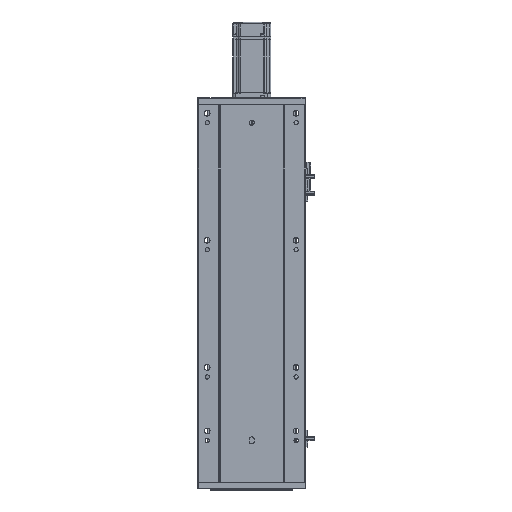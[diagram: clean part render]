
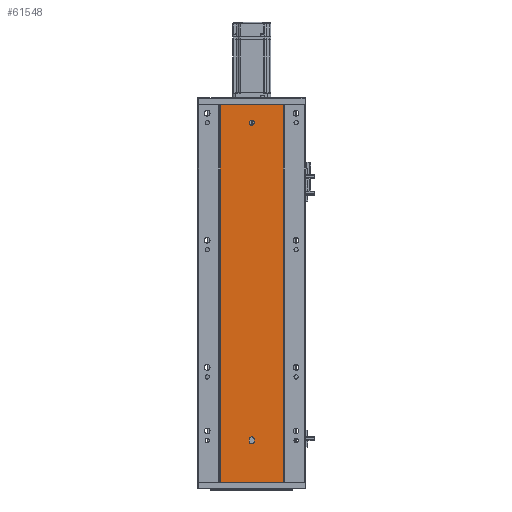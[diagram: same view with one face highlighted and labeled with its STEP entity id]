
A CAD part, front view. The second image highlights one B-rep face of the part: STEP entity #61548.
In plain terms, the highlighted planar face has unit normal (0, -1, 0).
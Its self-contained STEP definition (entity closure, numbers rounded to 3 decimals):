
#496 = AXIS2_PLACEMENT_3D ( 'NONE', #36404, #36613, #1706 ) ;
#658 = DIRECTION ( 'NONE',  ( 1., 0., 0. ) ) ;
#1458 = LINE ( 'NONE', #15335, #54908 ) ;
#1706 = DIRECTION ( 'NONE',  ( 0., 0., -1. ) ) ;
#1725 = CIRCLE ( 'NONE', #496, 4. ) ;
#3126 = EDGE_CURVE ( 'NONE', #30428, #42868, #45911, .T. ) ;
#3194 = CARTESIAN_POINT ( 'NONE',  ( 86.97, 79.476, 198. ) ) ;
#3819 = CARTESIAN_POINT ( 'NONE',  ( 136.47, 79.476, 67.5 ) ) ;
#4013 = AXIS2_PLACEMENT_3D ( 'NONE', #7741, #18055, #53202 ) ;
#4128 = B_SPLINE_CURVE_WITH_KNOTS ( 'NONE', 3,
 ( #37014, #61659, #3194, #42735 ),
 .UNSPECIFIED., .F., .F.,
 ( 4, 4 ),
 ( 0., 1. ),
 .UNSPECIFIED. ) ;
#5427 = FACE_BOUND ( 'NONE', #12594, .T. ) ;
#5588 = B_SPLINE_CURVE_WITH_KNOTS ( 'NONE', 3,
 ( #9038, #33823, #23732, #13630 ),
 .UNSPECIFIED., .F., .F.,
 ( 4, 4 ),
 ( 0., 1. ),
 .UNSPECIFIED. ) ;
#5598 = EDGE_CURVE ( 'NONE', #33282, #29806, #4128, .T. ) ;
#5677 = CARTESIAN_POINT ( 'NONE',  ( 136.47, 79.476, 562. ) ) ;
#6181 = FACE_BOUND ( 'NONE', #48029, .T. ) ;
#6700 = CIRCLE ( 'NONE', #46094, 4. ) ;
#7741 = CARTESIAN_POINT ( 'NONE',  ( 0., 79.476, 594. ) ) ;
#9038 = CARTESIAN_POINT ( 'NONE',  ( 185.97, 79.476, 594. ) ) ;
#10677 = LINE ( 'NONE', #53798, #12239 ) ;
#10875 = EDGE_CURVE ( 'NONE', #64849, #29631, #1725, .T. ) ;
#11216 = VERTEX_POINT ( 'NONE', #23402 ) ;
#11388 = EDGE_CURVE ( 'NONE', #29631, #64849, #59877, .T. ) ;
#12239 = VECTOR ( 'NONE', #58680, 1000. ) ;
#12594 = EDGE_LOOP ( 'NONE', ( #22360, #44350 ) ) ;
#12690 = CARTESIAN_POINT ( 'NONE',  ( 136.47, 79.476, 64.5 ) ) ;
#12887 = ORIENTED_EDGE ( 'NONE', *, *, #52910, .F. ) ;
#13541 = CARTESIAN_POINT ( 'NONE',  ( 132.47, 79.476, 67.5 ) ) ;
#13630 = CARTESIAN_POINT ( 'NONE',  ( 185.97, 79.476, 0. ) ) ;
#13945 = CIRCLE ( 'NONE', #32595, 4. ) ;
#15145 = CARTESIAN_POINT ( 'NONE',  ( 86.97, 79.476, 594. ) ) ;
#15335 = CARTESIAN_POINT ( 'NONE',  ( 0., 79.476, 594. ) ) ;
#16317 = DIRECTION ( 'NONE',  ( 0., 0., -1. ) ) ;
#17953 = FACE_OUTER_BOUND ( 'NONE', #40768, .T. ) ;
#18055 = DIRECTION ( 'NONE',  ( 0., 1., 0. ) ) ;
#18192 = DIRECTION ( 'NONE',  ( 0., -1., 0. ) ) ;
#18287 = CIRCLE ( 'NONE', #39253, 4. ) ;
#19177 = VECTOR ( 'NONE', #44649, 1000. ) ;
#20456 = DIRECTION ( 'NONE',  ( 0., -1., 0. ) ) ;
#20542 = CARTESIAN_POINT ( 'NONE',  ( 136.47, 79.476, 566. ) ) ;
#20668 = DIRECTION ( 'NONE',  ( 0., 0., -1. ) ) ;
#22109 = ORIENTED_EDGE ( 'NONE', *, *, #5598, .T. ) ;
#22360 = ORIENTED_EDGE ( 'NONE', *, *, #11388, .F. ) ;
#23092 = ORIENTED_EDGE ( 'NONE', *, *, #38188, .F. ) ;
#23402 = CARTESIAN_POINT ( 'NONE',  ( 132.47, 79.476, 64.5 ) ) ;
#23732 = CARTESIAN_POINT ( 'NONE',  ( 185.97, 79.476, 198. ) ) ;
#23790 = DIRECTION ( 'NONE',  ( 0., -1., 0. ) ) ;
#25794 = VERTEX_POINT ( 'NONE', #42045 ) ;
#26077 = VERTEX_POINT ( 'NONE', #45701 ) ;
#26484 = EDGE_CURVE ( 'NONE', #29806, #60027, #10677, .T. ) ;
#29030 = CARTESIAN_POINT ( 'NONE',  ( 185.97, 79.476, 0. ) ) ;
#29631 = VERTEX_POINT ( 'NONE', #5677 ) ;
#29806 = VERTEX_POINT ( 'NONE', #42980 ) ;
#30428 = VERTEX_POINT ( 'NONE', #53902 ) ;
#31013 = DIRECTION ( 'NONE',  ( 0., -1., 0. ) ) ;
#31133 = EDGE_CURVE ( 'NONE', #33282, #36708, #1458, .T. ) ;
#32595 = AXIS2_PLACEMENT_3D ( 'NONE', #55836, #20456, #20668 ) ;
#33282 = VERTEX_POINT ( 'NONE', #15145 ) ;
#33823 = CARTESIAN_POINT ( 'NONE',  ( 185.97, 79.476, 396. ) ) ;
#35953 = CARTESIAN_POINT ( 'NONE',  ( 140.47, 79.476, 67.5 ) ) ;
#36404 = CARTESIAN_POINT ( 'NONE',  ( 136.47, 79.476, 566. ) ) ;
#36613 = DIRECTION ( 'NONE',  ( 0., -1., 0. ) ) ;
#36708 = VERTEX_POINT ( 'NONE', #51240 ) ;
#37014 = CARTESIAN_POINT ( 'NONE',  ( 86.97, 79.476, 594. ) ) ;
#38188 = EDGE_CURVE ( 'NONE', #36708, #60027, #5588, .T. ) ;
#39253 = AXIS2_PLACEMENT_3D ( 'NONE', #3819, #23790, #58984 ) ;
#40768 = EDGE_LOOP ( 'NONE', ( #48619, #23092, #58655, #22109 ) ) ;
#41317 = EDGE_CURVE ( 'NONE', #42868, #25794, #18287, .T. ) ;
#42045 = CARTESIAN_POINT ( 'NONE',  ( 132.47, 79.476, 67.5 ) ) ;
#42735 = CARTESIAN_POINT ( 'NONE',  ( 86.97, 79.476, 0. ) ) ;
#42868 = VERTEX_POINT ( 'NONE', #35953 ) ;
#42980 = CARTESIAN_POINT ( 'NONE',  ( 86.97, 79.476, 0. ) ) ;
#43316 = PLANE ( 'NONE',  #4013 ) ;
#44350 = ORIENTED_EDGE ( 'NONE', *, *, #10875, .F. ) ;
#44474 = CARTESIAN_POINT ( 'NONE',  ( 136.47, 79.476, 570. ) ) ;
#44649 = DIRECTION ( 'NONE',  ( 0., 0., 1. ) ) ;
#45701 = CARTESIAN_POINT ( 'NONE',  ( 136.47, 79.476, 60.5 ) ) ;
#45911 = LINE ( 'NONE', #49704, #19177 ) ;
#46094 = AXIS2_PLACEMENT_3D ( 'NONE', #12690, #18192, #47617 ) ;
#46864 = ORIENTED_EDGE ( 'NONE', *, *, #51769, .F. ) ;
#47617 = DIRECTION ( 'NONE',  ( 0., 0., -1. ) ) ;
#47839 = LINE ( 'NONE', #13541, #51012 ) ;
#48029 = EDGE_LOOP ( 'NONE', ( #12887, #46864, #62619, #64199, #63954 ) ) ;
#48619 = ORIENTED_EDGE ( 'NONE', *, *, #26484, .T. ) ;
#49704 = CARTESIAN_POINT ( 'NONE',  ( 140.47, 79.476, 67.5 ) ) ;
#51012 = VECTOR ( 'NONE', #58649, 1000. ) ;
#51240 = CARTESIAN_POINT ( 'NONE',  ( 185.97, 79.476, 594. ) ) ;
#51769 = EDGE_CURVE ( 'NONE', #25794, #11216, #47839, .T. ) ;
#52712 = EDGE_CURVE ( 'NONE', #26077, #30428, #13945, .T. ) ;
#52910 = EDGE_CURVE ( 'NONE', #11216, #26077, #6700, .T. ) ;
#53202 = DIRECTION ( 'NONE',  ( 0., 0., 1. ) ) ;
#53798 = CARTESIAN_POINT ( 'NONE',  ( 0., 79.476, 0. ) ) ;
#53902 = CARTESIAN_POINT ( 'NONE',  ( 140.47, 79.476, 64.5 ) ) ;
#54908 = VECTOR ( 'NONE', #658, 1000. ) ;
#55648 = AXIS2_PLACEMENT_3D ( 'NONE', #20542, #31013, #16317 ) ;
#55836 = CARTESIAN_POINT ( 'NONE',  ( 136.47, 79.476, 64.5 ) ) ;
#58649 = DIRECTION ( 'NONE',  ( 0., 0., -1. ) ) ;
#58655 = ORIENTED_EDGE ( 'NONE', *, *, #31133, .F. ) ;
#58680 = DIRECTION ( 'NONE',  ( 1., 0., 0. ) ) ;
#58984 = DIRECTION ( 'NONE',  ( 0., 0., -1. ) ) ;
#59877 = CIRCLE ( 'NONE', #55648, 4. ) ;
#60027 = VERTEX_POINT ( 'NONE', #29030 ) ;
#61548 = ADVANCED_FACE ( 'NONE', ( #6181, #5427, #17953 ), #43316, .F. ) ;
#61659 = CARTESIAN_POINT ( 'NONE',  ( 86.97, 79.476, 396. ) ) ;
#62619 = ORIENTED_EDGE ( 'NONE', *, *, #41317, .F. ) ;
#63954 = ORIENTED_EDGE ( 'NONE', *, *, #52712, .F. ) ;
#64199 = ORIENTED_EDGE ( 'NONE', *, *, #3126, .F. ) ;
#64849 = VERTEX_POINT ( 'NONE', #44474 ) ;
